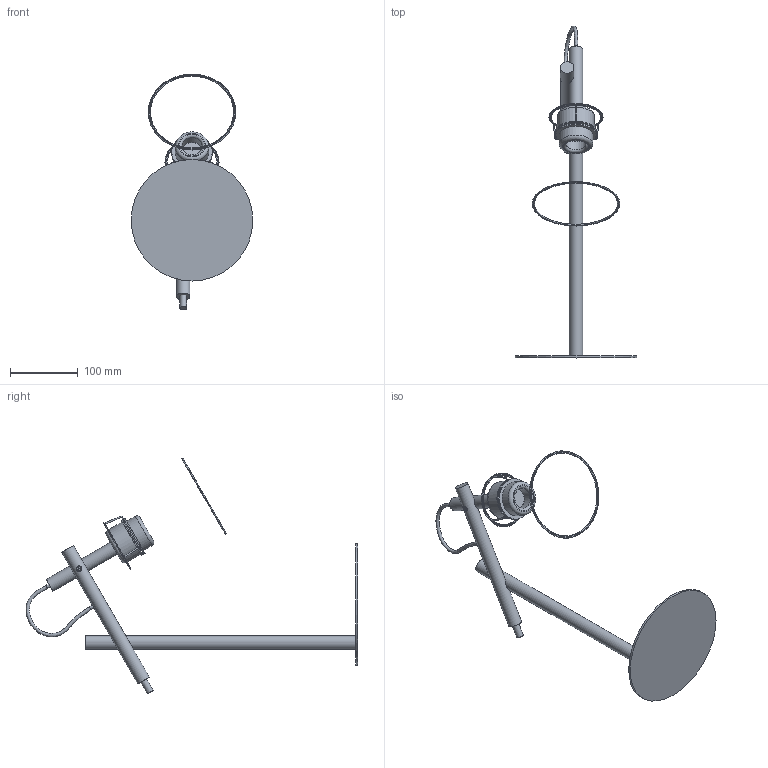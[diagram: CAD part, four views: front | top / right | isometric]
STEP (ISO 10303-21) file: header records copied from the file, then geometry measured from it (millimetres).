
FILE_DESCRIPTION(/* description */ (''),/* implementation_level */ '2;1');
FILE_NAME(/* name */ 'C:/Users/kubaw/OneDrive/Pulpit/TK_lighting - modele 2/OK/667_VAIO v4/667_VAIO v4.step',/* time_stamp */ '2021-04-02T07:01:34+02:00',/* author */ (''),/* organization */ (''),/* preprocessor_version */ 'ST-DEVELOPER v18.1',/* originating_system */ 'Autodesk Translation Framework v9.10.0.1330',/* authorisation */ '');
FILE_SCHEMA (('AUTOMOTIVE_DESIGN { 1 0 10303 214 3 1 1 }'));
Length unit declared in the file: millimetre
Products named in the file (1): 667_VAIO
Bounding box: 180 x 491.64 x 349.21 mm (x, y, z)
Volume: 515630.1 mm3; surface area: 236159 mm2
Topology: 18 solids, 18 shells, 114 faces, 208 edges, 138 vertices
Faces by surface type: plane 68, cylinder 25, torus 14, cone 4, bspline 3
Full cylindrical faces by diameter (mm): 2 x6, 5 x2, 7 x4, 10 x1, 20 x3, 30 x1, 50 x1, 55 x1, 60 x2, 72.945 x1, 180 x1
Entity records: 3643 total; most frequent: CARTESIAN_POINT 1264, DIRECTION 513, ORIENTED_EDGE 416, EDGE_CURVE 208, AXIS2_PLACEMENT_3D 206, VERTEX_POINT 138, EDGE_LOOP 126, FACE_OUTER_BOUND 114
